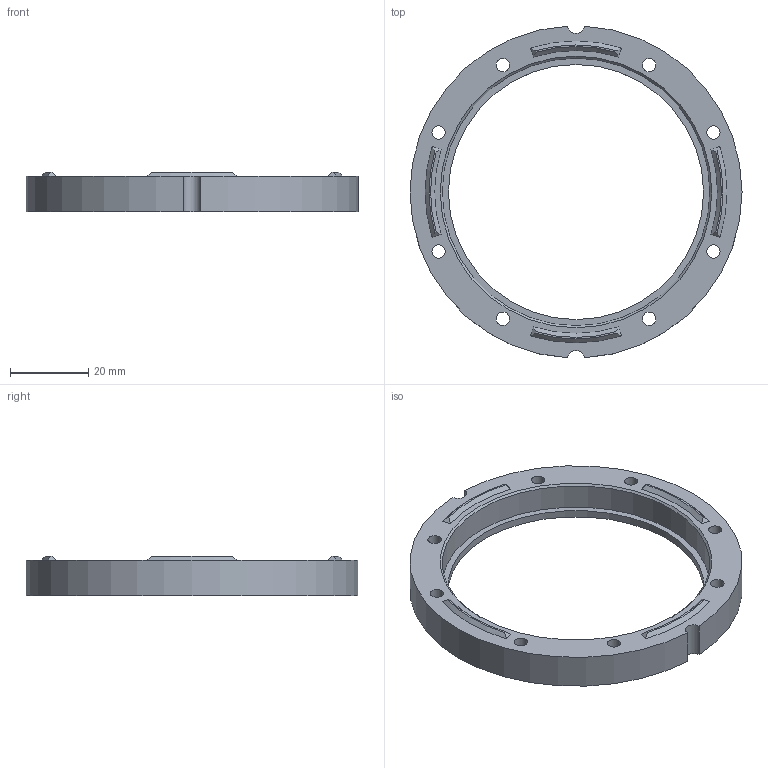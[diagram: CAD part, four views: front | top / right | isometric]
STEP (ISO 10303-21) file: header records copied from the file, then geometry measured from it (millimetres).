
FILE_DESCRIPTION(/* description */ ('Alibre Inc.'),/* implementation_level */ '2;1');
FILE_NAME(/* name */ 'export-13FCF56F-660F-4360-BAFD-6344D59F4DF6',/* time_stamp */ '2026-01-22T13:50:01+00:00',/* author */ (''),/* organization */ (''),/* preprocessor_version */ 'ST-DEVELOPER v17',/* originating_system */ 'Alibre',/* authorisation */ '');
FILE_SCHEMA (('CONFIG_CONTROL_DESIGN'));
Length unit declared in the file: millimetre
Bounding box: 84.6 x 84.49 x 10 mm (x, y, z)
Volume: 17363.7 mm3; surface area: 9677.5 mm2
Topology: 1 solids, 1 shells, 62 faces, 133 edges, 86 vertices
Faces by surface type: plane 23, cylinder 22, cone 17
Full cylindrical faces by diameter (mm): 3.4 x8, 4.7 x8, 65 x1, 68.2 x1
Entity records: 1625 total; most frequent: CARTESIAN_POINT 281, DIRECTION 253, ORIENTED_EDGE 210, AXIS2_PLACEMENT_3D 128, EDGE_LOOP 120, FACE_BOUND 120, EDGE_CURVE 105, VERTEX_POINT 85
